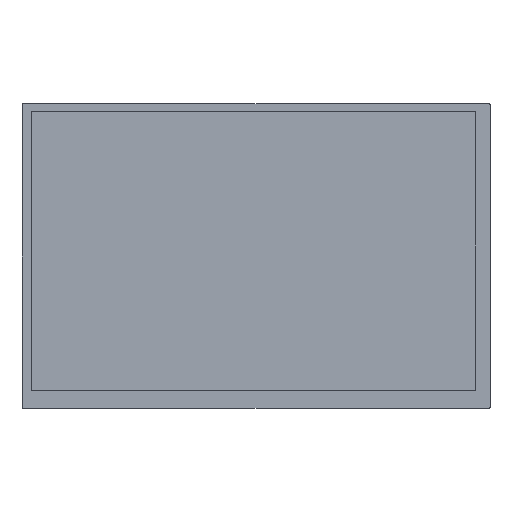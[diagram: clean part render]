
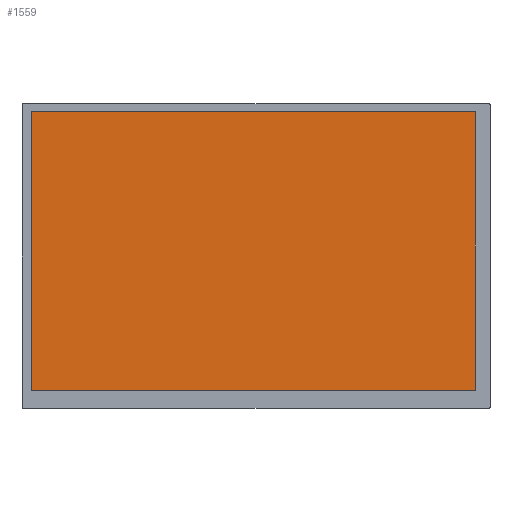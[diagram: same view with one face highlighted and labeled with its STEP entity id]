
A CAD part, top view. The second image highlights one B-rep face of the part: STEP entity #1559.
In plain terms, the highlighted planar face has unit normal (0, 0, 1).
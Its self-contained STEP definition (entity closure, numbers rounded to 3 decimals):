
#548=DIRECTION('',(0.,-1.,0.));
#549=VECTOR('',#548,136.6);
#550=CARTESIAN_POINT('',(-110.27,70.75,6.6));
#551=LINE('',#550,#549);
#552=DIRECTION('',(-1.,0.,0.));
#553=VECTOR('',#552,217.96);
#554=CARTESIAN_POINT('',(107.69,70.75,6.6));
#555=LINE('',#554,#553);
#556=DIRECTION('',(0.,1.,0.));
#557=VECTOR('',#556,136.6);
#558=CARTESIAN_POINT('',(107.69,-65.85,6.6));
#559=LINE('',#558,#557);
#560=DIRECTION('',(1.,0.,0.));
#561=VECTOR('',#560,217.96);
#562=CARTESIAN_POINT('',(-110.27,-65.85,6.6));
#563=LINE('',#562,#561);
#748=CARTESIAN_POINT('',(-110.27,70.75,6.6));
#749=CARTESIAN_POINT('',(-110.27,-65.85,6.6));
#750=VERTEX_POINT('',#748);
#751=VERTEX_POINT('',#749);
#752=CARTESIAN_POINT('',(107.69,-65.85,6.6));
#753=VERTEX_POINT('',#752);
#754=CARTESIAN_POINT('',(107.69,70.75,6.6));
#755=VERTEX_POINT('',#754);
#1548=CARTESIAN_POINT('',(114.55,-74.65,6.6));
#1549=DIRECTION('',(0.,0.,1.));
#1550=DIRECTION('',(1.,0.,0.));
#1551=AXIS2_PLACEMENT_3D('',#1548,#1549,#1550);
#1552=PLANE('',#1551);
#1553=ORIENTED_EDGE('',*,*,#1500,.F.);
#1554=ORIENTED_EDGE('',*,*,#1515,.F.);
#1555=ORIENTED_EDGE('',*,*,#1529,.F.);
#1556=ORIENTED_EDGE('',*,*,#1542,.F.);
#1557=EDGE_LOOP('',(#1553,#1554,#1555,#1556));
#1558=FACE_OUTER_BOUND('',#1557,.F.);
#1500=EDGE_CURVE('',#750,#751,#551,.T.);
#1515=EDGE_CURVE('',#755,#750,#555,.T.);
#1529=EDGE_CURVE('',#753,#755,#559,.T.);
#1542=EDGE_CURVE('',#751,#753,#563,.T.);
#1559=ADVANCED_FACE('',(#1558),#1552,.T.);
